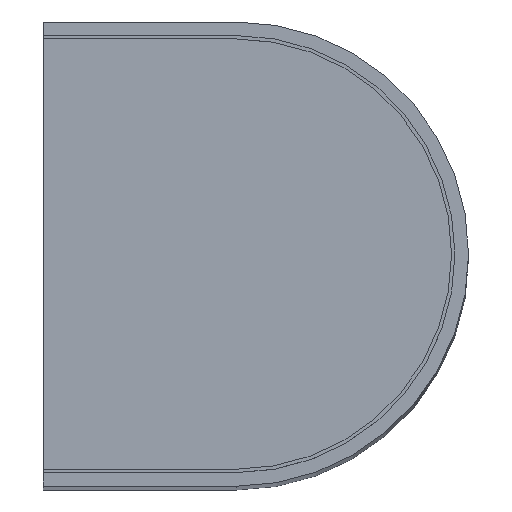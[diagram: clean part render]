
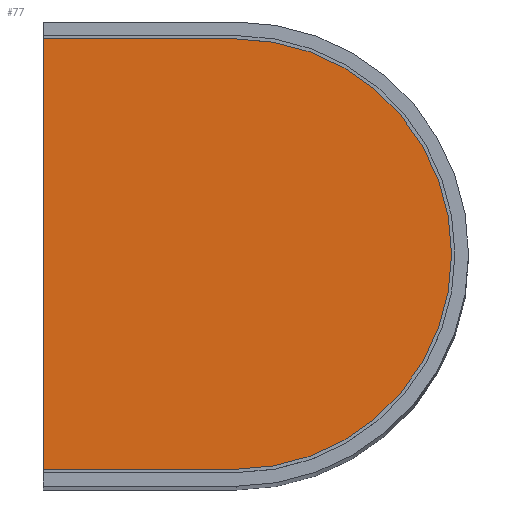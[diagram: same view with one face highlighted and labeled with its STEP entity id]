
A CAD part, top view. The second image highlights one B-rep face of the part: STEP entity #77.
In plain terms, the highlighted planar face has unit normal (0, 0, 1).
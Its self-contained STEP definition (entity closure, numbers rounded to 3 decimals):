
#2 = EDGE_CURVE ( 'NONE', #653, #538, #553, .T. ) ;
#10 = CARTESIAN_POINT ( 'NONE',  ( -125., -63.25, 325.25 ) ) ;
#12 = AXIS2_PLACEMENT_3D ( 'NONE', #637, #639, #701 ) ;
#15 = VECTOR ( 'NONE', #269, 1000. ) ;
#31 = LINE ( 'NONE', #232, #437 ) ;
#48 = CARTESIAN_POINT ( 'NONE',  ( -125., -63.25, 325.25 ) ) ;
#72 = VERTEX_POINT ( 'NONE', #206 ) ;
#77 = ADVANCED_FACE ( 'NONE', ( #246 ), #376, .T. ) ;
#97 = EDGE_LOOP ( 'NONE', ( #343, #736, #478, #715 ) ) ;
#193 = DIRECTION ( 'NONE',  ( 0., -1., 0. ) ) ;
#206 = CARTESIAN_POINT ( 'NONE',  ( -68.25, -63.25, 325.25 ) ) ;
#211 = EDGE_CURVE ( 'NONE', #72, #653, #465, .T. ) ;
#225 = LINE ( 'NONE', #48, #367 ) ;
#232 = CARTESIAN_POINT ( 'NONE',  ( -125., 63.25, 325.25 ) ) ;
#246 = FACE_OUTER_BOUND ( 'NONE', #97, .T. ) ;
#269 = DIRECTION ( 'NONE',  ( -1., 0., 0. ) ) ;
#320 = CARTESIAN_POINT ( 'NONE',  ( -68.25, 63.25, 325.25 ) ) ;
#343 = ORIENTED_EDGE ( 'NONE', *, *, #2, .T. ) ;
#362 = VERTEX_POINT ( 'NONE', #10 ) ;
#367 = VECTOR ( 'NONE', #672, 1000. ) ;
#374 = CARTESIAN_POINT ( 'NONE',  ( -68.25, 0., 325.25 ) ) ;
#376 = PLANE ( 'NONE',  #726 ) ;
#377 = EDGE_CURVE ( 'NONE', #538, #362, #31, .T. ) ;
#432 = DIRECTION ( 'NONE',  ( 0., 0., 1. ) ) ;
#437 = VECTOR ( 'NONE', #193, 1000. ) ;
#439 = DIRECTION ( 'NONE',  ( 1., 0., 0. ) ) ;
#465 = CIRCLE ( 'NONE', #12, 63.25 ) ;
#478 = ORIENTED_EDGE ( 'NONE', *, *, #662, .T. ) ;
#538 = VERTEX_POINT ( 'NONE', #548 ) ;
#548 = CARTESIAN_POINT ( 'NONE',  ( -125., 63.25, 325.25 ) ) ;
#553 = LINE ( 'NONE', #613, #15 ) ;
#613 = CARTESIAN_POINT ( 'NONE',  ( -68.25, 63.25, 325.25 ) ) ;
#637 = CARTESIAN_POINT ( 'NONE',  ( -68.25, 0., 325.25 ) ) ;
#639 = DIRECTION ( 'NONE',  ( 0., 0., 1. ) ) ;
#653 = VERTEX_POINT ( 'NONE', #320 ) ;
#662 = EDGE_CURVE ( 'NONE', #362, #72, #225, .T. ) ;
#672 = DIRECTION ( 'NONE',  ( 1., 0., 0. ) ) ;
#701 = DIRECTION ( 'NONE',  ( 1., 0., 0. ) ) ;
#715 = ORIENTED_EDGE ( 'NONE', *, *, #211, .T. ) ;
#726 = AXIS2_PLACEMENT_3D ( 'NONE', #374, #432, #439 ) ;
#736 = ORIENTED_EDGE ( 'NONE', *, *, #377, .T. ) ;
